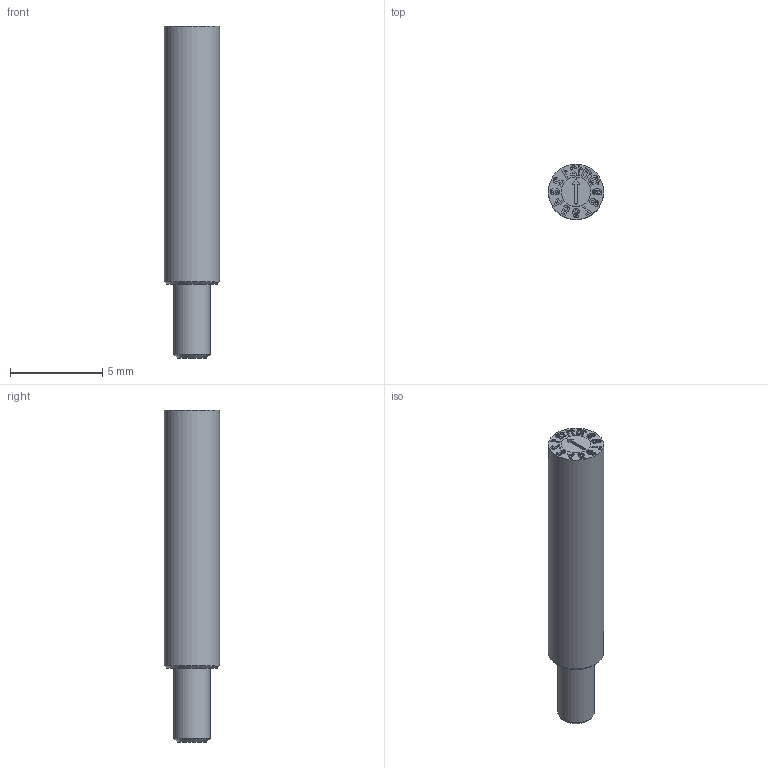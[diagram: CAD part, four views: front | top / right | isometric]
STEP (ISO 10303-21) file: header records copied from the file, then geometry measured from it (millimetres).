
FILE_DESCRIPTION(/* description */ (''),/* implementation_level */ '2;1');
FILE_NAME(/* name */ 'IMC-D1200-M3.step',/* time_stamp */ '2025-04-16T14:05:52+02:00',/* author */ (''),/* organization */ (''),/* preprocessor_version */ 'ST-DEVELOPER v20.1',/* originating_system */ 'Autodesk Translation Framework v14.4.0.0',/* authorisation */ '');
FILE_SCHEMA (('AUTOMOTIVE_DESIGN { 1 0 10303 214 3 1 1 }'));
Length unit declared in the file: millimetre
Products named in the file (1): D1200-M3
Bounding box: 3 x 3 x 18 mm (x, y, z)
Volume: 110.9 mm3; surface area: 187.6 mm2
Topology: 1 solids, 1 shells, 295 faces, 805 edges, 536 vertices
Faces by surface type: bspline 191, plane 97, cylinder 5, cone 2
Full cylindrical faces by diameter (mm): 1.6 x1, 1.61 x1, 2 x1, 3 x1
Entity records: 11084 total; most frequent: CARTESIAN_POINT 4894, ORIENTED_EDGE 1610, EDGE_CURVE 805, DIRECTION 643, VERTEX_POINT 536, LINE 409, VECTOR 409, B_SPLINE_CURVE_WITH_KNOTS 384
